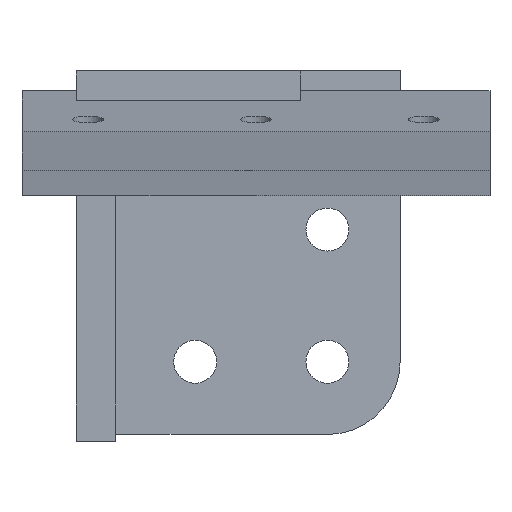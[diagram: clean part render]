
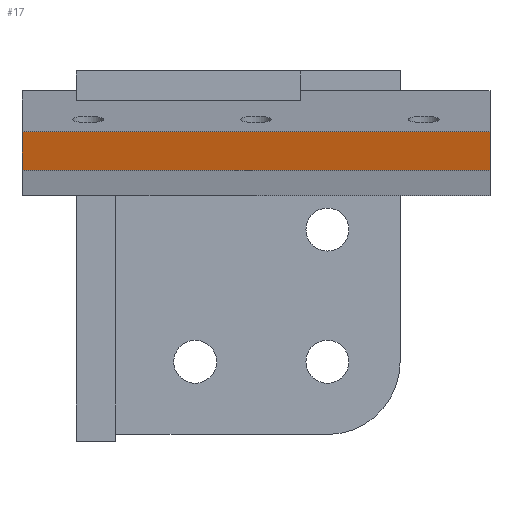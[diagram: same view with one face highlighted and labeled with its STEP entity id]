
A CAD part, left-side view. The second image highlights one B-rep face of the part: STEP entity #17.
In plain terms, the highlighted planar face has unit normal (-0.976, 0, -0.216).
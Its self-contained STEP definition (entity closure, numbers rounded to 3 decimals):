
#17 = ADVANCED_FACE('',(#18),#32,.F.);
#18 = FACE_BOUND('',#19,.F.);
#19 = EDGE_LOOP('',(#20,#55,#83,#111));
#20 = ORIENTED_EDGE('',*,*,#21,.F.);
#21 = EDGE_CURVE('',#22,#24,#26,.T.);
#22 = VERTEX_POINT('',#23);
#23 = CARTESIAN_POINT('',(1.221,49.6,-186.04));
#24 = VERTEX_POINT('',#25);
#25 = CARTESIAN_POINT('',(-0.077,49.6,-180.182));
#26 = SURFACE_CURVE('',#27,(#31,#43),.PCURVE_S1.);
#27 = LINE('',#28,#29);
#28 = CARTESIAN_POINT('',(1.221,49.6,-186.04));
#29 = VECTOR('',#30,1.);
#30 = DIRECTION('',(-0.216,0.,0.976));
#31 = PCURVE('',#32,#37);
#32 = PLANE('',#33);
#33 = AXIS2_PLACEMENT_3D('',#34,#35,#36);
#34 = CARTESIAN_POINT('',(1.221,49.6,-186.04));
#35 = DIRECTION('',(0.976,0.,0.216));
#36 = DIRECTION('',(-0.216,0.,0.976));
#37 = DEFINITIONAL_REPRESENTATION('',(#38),#42);
#38 = LINE('',#39,#40);
#39 = CARTESIAN_POINT('',(0.,0.));
#40 = VECTOR('',#41,1.);
#41 = DIRECTION('',(1.,0.));
#42 = ( GEOMETRIC_REPRESENTATION_CONTEXT(2) 
PARAMETRIC_REPRESENTATION_CONTEXT() REPRESENTATION_CONTEXT('2D SPACE',''
  ) );
#43 = PCURVE('',#44,#49);
#44 = PLANE('',#45);
#45 = AXIS2_PLACEMENT_3D('',#46,#47,#48);
#46 = CARTESIAN_POINT('',(1.221,49.6,-186.04));
#47 = DIRECTION('',(0.,1.,0.));
#48 = DIRECTION('',(-0.216,0.,0.976));
#49 = DEFINITIONAL_REPRESENTATION('',(#50),#54);
#50 = LINE('',#51,#52);
#51 = CARTESIAN_POINT('',(0.,0.));
#52 = VECTOR('',#53,1.);
#53 = DIRECTION('',(1.,0.));
#54 = ( GEOMETRIC_REPRESENTATION_CONTEXT(2) 
PARAMETRIC_REPRESENTATION_CONTEXT() REPRESENTATION_CONTEXT('2D SPACE',''
  ) );
#55 = ORIENTED_EDGE('',*,*,#56,.T.);
#56 = EDGE_CURVE('',#22,#57,#59,.T.);
#57 = VERTEX_POINT('',#58);
#58 = CARTESIAN_POINT('',(1.221,120.4,-186.04));
#59 = SURFACE_CURVE('',#60,(#64,#71),.PCURVE_S1.);
#60 = LINE('',#61,#62);
#61 = CARTESIAN_POINT('',(1.221,49.6,-186.04));
#62 = VECTOR('',#63,1.);
#63 = DIRECTION('',(0.,1.,0.));
#64 = PCURVE('',#32,#65);
#65 = DEFINITIONAL_REPRESENTATION('',(#66),#70);
#66 = LINE('',#67,#68);
#67 = CARTESIAN_POINT('',(0.,0.));
#68 = VECTOR('',#69,1.);
#69 = DIRECTION('',(0.,-1.));
#70 = ( GEOMETRIC_REPRESENTATION_CONTEXT(2) 
PARAMETRIC_REPRESENTATION_CONTEXT() REPRESENTATION_CONTEXT('2D SPACE',''
  ) );
#71 = PCURVE('',#72,#77);
#72 = PLANE('',#73);
#73 = AXIS2_PLACEMENT_3D('',#74,#75,#76);
#74 = CARTESIAN_POINT('',(1.221,49.6,-186.04));
#75 = DIRECTION('',(-0.216,0.,0.976));
#76 = DIRECTION('',(0.976,0.,0.216));
#77 = DEFINITIONAL_REPRESENTATION('',(#78),#82);
#78 = LINE('',#79,#80);
#79 = CARTESIAN_POINT('',(0.,0.));
#80 = VECTOR('',#81,1.);
#81 = DIRECTION('',(0.,1.));
#82 = ( GEOMETRIC_REPRESENTATION_CONTEXT(2) 
PARAMETRIC_REPRESENTATION_CONTEXT() REPRESENTATION_CONTEXT('2D SPACE',''
  ) );
#83 = ORIENTED_EDGE('',*,*,#84,.T.);
#84 = EDGE_CURVE('',#57,#85,#87,.T.);
#85 = VERTEX_POINT('',#86);
#86 = CARTESIAN_POINT('',(-0.077,120.4,-180.182));
#87 = SURFACE_CURVE('',#88,(#92,#99),.PCURVE_S1.);
#88 = LINE('',#89,#90);
#89 = CARTESIAN_POINT('',(1.221,120.4,-186.04));
#90 = VECTOR('',#91,1.);
#91 = DIRECTION('',(-0.216,0.,0.976));
#92 = PCURVE('',#32,#93);
#93 = DEFINITIONAL_REPRESENTATION('',(#94),#98);
#94 = LINE('',#95,#96);
#95 = CARTESIAN_POINT('',(0.,-70.8));
#96 = VECTOR('',#97,1.);
#97 = DIRECTION('',(1.,0.));
#98 = ( GEOMETRIC_REPRESENTATION_CONTEXT(2) 
PARAMETRIC_REPRESENTATION_CONTEXT() REPRESENTATION_CONTEXT('2D SPACE',''
  ) );
#99 = PCURVE('',#100,#105);
#100 = PLANE('',#101);
#101 = AXIS2_PLACEMENT_3D('',#102,#103,#104);
#102 = CARTESIAN_POINT('',(1.221,120.4,-186.04));
#103 = DIRECTION('',(0.,1.,0.));
#104 = DIRECTION('',(-0.216,0.,0.976));
#105 = DEFINITIONAL_REPRESENTATION('',(#106),#110);
#106 = LINE('',#107,#108);
#107 = CARTESIAN_POINT('',(0.,0.));
#108 = VECTOR('',#109,1.);
#109 = DIRECTION('',(1.,0.));
#110 = ( GEOMETRIC_REPRESENTATION_CONTEXT(2) 
PARAMETRIC_REPRESENTATION_CONTEXT() REPRESENTATION_CONTEXT('2D SPACE',''
  ) );
#111 = ORIENTED_EDGE('',*,*,#112,.F.);
#112 = EDGE_CURVE('',#24,#85,#113,.T.);
#113 = SURFACE_CURVE('',#114,(#118,#125),.PCURVE_S1.);
#114 = LINE('',#115,#116);
#115 = CARTESIAN_POINT('',(-0.077,49.6,-180.182));
#116 = VECTOR('',#117,1.);
#117 = DIRECTION('',(0.,1.,0.));
#118 = PCURVE('',#32,#119);
#119 = DEFINITIONAL_REPRESENTATION('',(#120),#124);
#120 = LINE('',#121,#122);
#121 = CARTESIAN_POINT('',(6.,0.));
#122 = VECTOR('',#123,1.);
#123 = DIRECTION('',(0.,-1.));
#124 = ( GEOMETRIC_REPRESENTATION_CONTEXT(2) 
PARAMETRIC_REPRESENTATION_CONTEXT() REPRESENTATION_CONTEXT('2D SPACE',''
  ) );
#125 = PCURVE('',#126,#131);
#126 = PLANE('',#127);
#127 = AXIS2_PLACEMENT_3D('',#128,#129,#130);
#128 = CARTESIAN_POINT('',(-0.077,49.6,-180.182));
#129 = DIRECTION('',(-0.216,0.,0.976));
#130 = DIRECTION('',(0.976,0.,0.216));
#131 = DEFINITIONAL_REPRESENTATION('',(#132),#136);
#132 = LINE('',#133,#134);
#133 = CARTESIAN_POINT('',(0.,0.));
#134 = VECTOR('',#135,1.);
#135 = DIRECTION('',(0.,1.));
#136 = ( GEOMETRIC_REPRESENTATION_CONTEXT(2) 
PARAMETRIC_REPRESENTATION_CONTEXT() REPRESENTATION_CONTEXT('2D SPACE',''
  ) );
